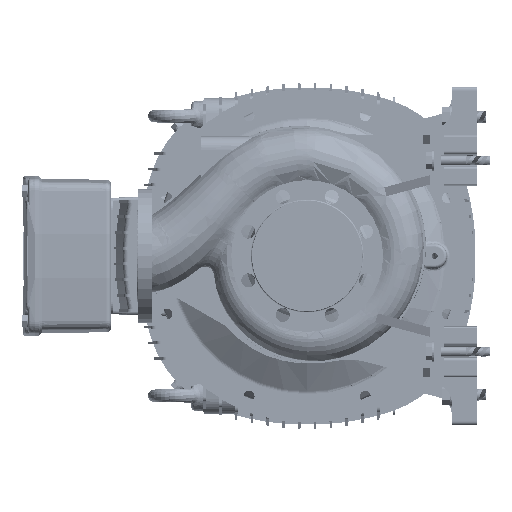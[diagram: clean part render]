
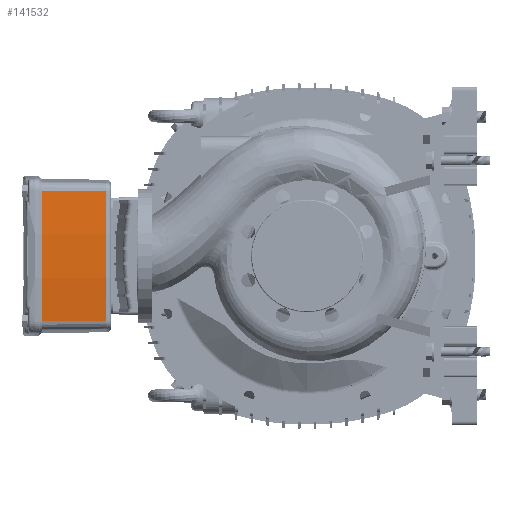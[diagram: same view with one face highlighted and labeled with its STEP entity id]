
A CAD part, left-side view. The second image highlights one B-rep face of the part: STEP entity #141532.
In plain terms, the highlighted conical face has half-angle 1 degrees and reference radius 1049 mm.
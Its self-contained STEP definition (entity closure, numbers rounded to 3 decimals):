
#2883 = CARTESIAN_POINT ( 'NONE',  ( 0., 330.86, -896.5 ) ) ;
#4941 = CARTESIAN_POINT ( 'NONE',  ( 107.381, 437.446, 146.804 ) ) ;
#5319 = VERTEX_POINT ( 'NONE', #4941 ) ;
#5339 = DIRECTION ( 'NONE',  ( -1., 0., 0. ) ) ;
#6361 = AXIS2_PLACEMENT_3D ( 'NONE', #89883, #127140, #13731 ) ;
#13731 = DIRECTION ( 'NONE',  ( -1., 0., 0. ) ) ;
#19626 = DIRECTION ( 'NONE',  ( 0., 1., 0. ) ) ;
#29085 = LINE ( 'NONE', #132524, #102338 ) ;
#40779 = DIRECTION ( 'NONE',  ( 0.002, -1., -0.017 ) ) ;
#45304 = FACE_OUTER_BOUND ( 'NONE', #74481, .T. ) ;
#47890 = ORIENTED_EDGE ( 'NONE', *, *, #92557, .T. ) ;
#59332 = DIRECTION ( 'NONE',  ( 1., 0., 0. ) ) ;
#60535 = AXIS2_PLACEMENT_3D ( 'NONE', #2883, #156801, #5339 ) ;
#74481 = EDGE_LOOP ( 'NONE', ( #98137, #47890, #82683, #150840 ) ) ;
#76415 = LINE ( 'NONE', #129333, #113593 ) ;
#78009 = EDGE_CURVE ( 'NONE', #111984, #5319, #122620, .T. ) ;
#82683 = ORIENTED_EDGE ( 'NONE', *, *, #139086, .F. ) ;
#89883 = CARTESIAN_POINT ( 'NONE',  ( 0., 437.446, -896.5 ) ) ;
#92557 = EDGE_CURVE ( 'NONE', #161398, #133390, #129286, .T. ) ;
#96056 = EDGE_CURVE ( 'NONE', #111984, #161398, #76415, .T. ) ;
#96594 = CARTESIAN_POINT ( 'NONE',  ( 0., 448., -896.5 ) ) ;
#98137 = ORIENTED_EDGE ( 'NONE', *, *, #96056, .T. ) ;
#102338 = VECTOR ( 'NONE', #106885, 1000. ) ;
#106054 = CARTESIAN_POINT ( 'NONE',  ( 107.19, 330.86, 144.954 ) ) ;
#106885 = DIRECTION ( 'NONE',  ( -0.002, -1., -0.017 ) ) ;
#107550 = AXIS2_PLACEMENT_3D ( 'NONE', #96594, #19626, #59332 ) ;
#111984 = VERTEX_POINT ( 'NONE', #161935 ) ;
#113593 = VECTOR ( 'NONE', #40779, 1000. ) ;
#122620 = CIRCLE ( 'NONE', #6361, 1048.816 ) ;
#127140 = DIRECTION ( 'NONE',  ( 0., 1., 0. ) ) ;
#129286 = CIRCLE ( 'NONE', #60535, 1046.955 ) ;
#129333 = CARTESIAN_POINT ( 'NONE',  ( -107.4, 448., 146.988 ) ) ;
#132524 = CARTESIAN_POINT ( 'NONE',  ( 107.4, 448., 146.988 ) ) ;
#133390 = VERTEX_POINT ( 'NONE', #106054 ) ;
#139086 = EDGE_CURVE ( 'NONE', #5319, #133390, #29085, .T. ) ;
#141532 = ADVANCED_FACE ( 'NONE', ( #45304 ), #157887, .T. ) ;
#144372 = CARTESIAN_POINT ( 'NONE',  ( -107.19, 330.86, 144.954 ) ) ;
#150840 = ORIENTED_EDGE ( 'NONE', *, *, #78009, .F. ) ;
#156801 = DIRECTION ( 'NONE',  ( 0., 1., 0. ) ) ;
#157887 = CONICAL_SURFACE ( 'NONE', #107550, 1049., 0.017 ) ;
#161398 = VERTEX_POINT ( 'NONE', #144372 ) ;
#161935 = CARTESIAN_POINT ( 'NONE',  ( -107.381, 437.446, 146.804 ) ) ;
